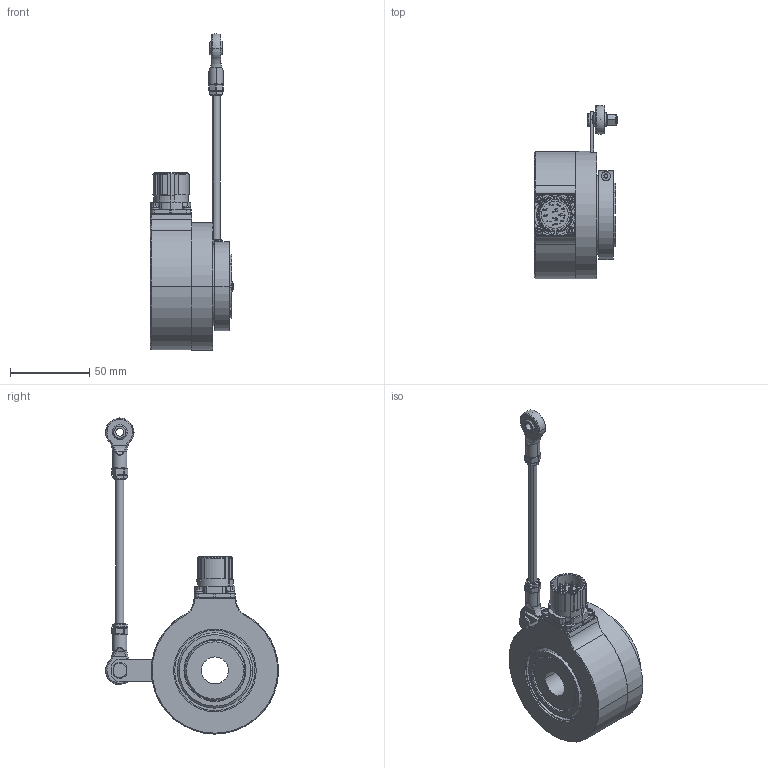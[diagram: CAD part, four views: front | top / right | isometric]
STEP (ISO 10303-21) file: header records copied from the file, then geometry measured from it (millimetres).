
FILE_DESCRIPTION (( 'STEP AP203' ), '1' );
FILE_NAME ('K80I.OXX.XXXXX.XH27817.6XRC4.step', '2025-12-09T12:42:57', ( '' ), ( '' ), 'SwSTEP 2.0', 'SolidWorks 2021', '' );
FILE_SCHEMA (( 'CONFIG_CONTROL_DESIGN' ));
Length unit declared in the file: millimetre
Products named in the file (1): K80I.OXX.XXXXX.XH27817.6XRC4
Bounding box: 52.6 x 108.97 x 199.07 mm (x, y, z)
Volume: 228341.3 mm3; surface area: 78511.9 mm2
Topology: 15 solids, 15 shells, 1077 faces, 2781 edges, 1748 vertices
Faces by surface type: plane 389, cylinder 343, bspline 148, cone 97, torus 52, sphere 48
Entity records: 40114 total; most frequent: CARTESIAN_POINT 14569, ORIENTED_EDGE 5426, DIRECTION 5204, EDGE_CURVE 2713, AXIS2_PLACEMENT_3D 1990, VERTEX_POINT 1741, VECTOR 1224, LINE 1224
